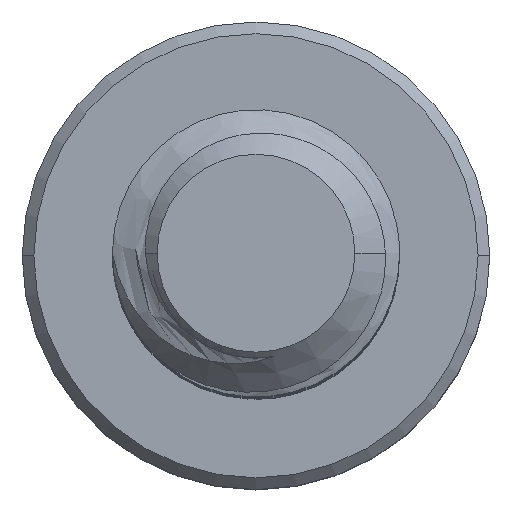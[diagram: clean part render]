
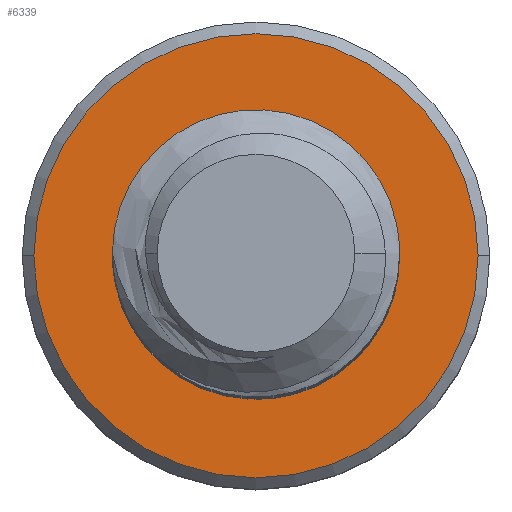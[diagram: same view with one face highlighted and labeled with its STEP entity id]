
A CAD part, top view. The second image highlights one B-rep face of the part: STEP entity #6339.
In plain terms, the highlighted planar face has unit normal (0, 0, 1).
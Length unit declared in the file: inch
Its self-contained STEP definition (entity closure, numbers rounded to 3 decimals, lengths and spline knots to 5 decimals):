
#95 = CARTESIAN_POINT ( 'NONE',  ( 0.01493, 0.03101, -0.4375 ) ) ;
#135 = CARTESIAN_POINT ( 'NONE',  ( -0.02759, 0.01755, -0.4375 ) ) ;
#168 = DIRECTION ( 'NONE',  ( 0., 0., -1. ) ) ;
#585 = CARTESIAN_POINT ( 'NONE',  ( 0.03288, 0.0178, -0.4375 ) ) ;
#605 = CARTESIAN_POINT ( 'NONE',  ( 0., -0.043, -0.4375 ) ) ;
#631 = CARTESIAN_POINT ( 'NONE',  ( -0.022, 0.02241, -0.4375 ) ) ;
#670 = DIRECTION ( 'NONE',  ( 0., 0., -1. ) ) ;
#791 = ORIENTED_EDGE ( 'NONE', *, *, #3292, .T. ) ;
#1014 = CARTESIAN_POINT ( 'NONE',  ( 0., 0., -0.4375 ) ) ;
#1051 = VERTEX_POINT ( 'NONE', #1275 ) ;
#1080 = CARTESIAN_POINT ( 'NONE',  ( 0.04012, -0.00334, -0.4375 ) ) ;
#1082 = B_SPLINE_CURVE_WITH_KNOTS ( 'NONE', 3,
 ( #605, #3599, #1104, #4619, #1634, #5127, #2137, #5638, #2642, #6149, #3138, #135, #3623, #631 ),
 .UNSPECIFIED., .F., .F.,
 ( 4, 2, 2, 2, 2, 2, 4 ),
 ( 0., 0.00028, 0.00056, 0.00112, 0.00168, 0.00196, 0.00224 ),
 .UNSPECIFIED. ) ;
#1104 = CARTESIAN_POINT ( 'NONE',  ( -0.00728, -0.04173, -0.4375 ) ) ;
#1275 = CARTESIAN_POINT ( 'NONE',  ( 0.03013, -0.03068, -0.4375 ) ) ;
#1315 = AXIS2_PLACEMENT_3D ( 'NONE', #1014, #4537, #1545 ) ;
#1319 = DIRECTION ( 'NONE',  ( 0., 0., 1. ) ) ;
#1332 = FACE_BOUND ( 'NONE', #5435, .T. ) ;
#1414 = ORIENTED_EDGE ( 'NONE', *, *, #3347, .T. ) ;
#1491 = CARTESIAN_POINT ( 'NONE',  ( 0., 0., -0.4375 ) ) ;
#1499 = CARTESIAN_POINT ( 'NONE',  ( 0., 0.0314, -0.4375 ) ) ;
#1533 = AXIS2_PLACEMENT_3D ( 'NONE', #3173, #168, #3664 ) ;
#1545 = DIRECTION ( 'NONE',  ( -1., 0., 0. ) ) ;
#1614 = CARTESIAN_POINT ( 'NONE',  ( 0.03747, -0.01789, -0.4375 ) ) ;
#1634 = CARTESIAN_POINT ( 'NONE',  ( -0.01742, -0.03715, -0.4375 ) ) ;
#1836 = CARTESIAN_POINT ( 'NONE',  ( 0., -0.043, -0.4375 ) ) ;
#1847 = AXIS2_PLACEMENT_3D ( 'NONE', #2684, #670, #4173 ) ;
#1906 = CIRCLE ( 'NONE', #4286, 0.043 ) ;
#2004 = DIRECTION ( 'NONE',  ( -1., 0., 0. ) ) ;
#2120 = CARTESIAN_POINT ( 'NONE',  ( 0.03247, -0.02778, -0.4375 ) ) ;
#2137 = CARTESIAN_POINT ( 'NONE',  ( -0.03084, -0.02423, -0.4375 ) ) ;
#2323 = ORIENTED_EDGE ( 'NONE', *, *, #3198, .F. ) ;
#2588 = CARTESIAN_POINT ( 'NONE',  ( 0., 0.0314, -0.4375 ) ) ;
#2642 = CARTESIAN_POINT ( 'NONE',  ( -0.03635, -0.00276, -0.4375 ) ) ;
#2684 = CARTESIAN_POINT ( 'NONE',  ( 0., 0., -0.4375 ) ) ;
#3138 = CARTESIAN_POINT ( 'NONE',  ( -0.03176, 0.01137, -0.4375 ) ) ;
#3173 = CARTESIAN_POINT ( 'NONE',  ( 0., 0., -0.4375 ) ) ;
#3198 = EDGE_CURVE ( 'NONE', #3233, #1051, #1906, .T. ) ;
#3233 = VERTEX_POINT ( 'NONE', #1836 ) ;
#3267 = ORIENTED_EDGE ( 'NONE', *, *, #3400, .T. ) ;
#3292 = EDGE_CURVE ( 'NONE', #4294, #3538, #6363, .T. ) ;
#3347 = EDGE_CURVE ( 'NONE', #3538, #4294, #3847, .T. ) ;
#3400 = EDGE_CURVE ( 'NONE', #3971, #1051, #6103, .T. ) ;
#3433 = EDGE_CURVE ( 'NONE', #3233, #6194, #1082, .T. ) ;
#3538 = VERTEX_POINT ( 'NONE', #5611 ) ;
#3576 = CARTESIAN_POINT ( 'NONE',  ( -0.022, 0.02241, -0.4375 ) ) ;
#3585 = CARTESIAN_POINT ( 'NONE',  ( 0.02788, 0.02362, -0.4375 ) ) ;
#3596 = EDGE_CURVE ( 'NONE', #6194, #3971, #5207, .T. ) ;
#3599 = CARTESIAN_POINT ( 'NONE',  ( -0.00371, -0.04261, -0.4375 ) ) ;
#3623 = CARTESIAN_POINT ( 'NONE',  ( -0.02505, 0.02024, -0.4375 ) ) ;
#3664 = DIRECTION ( 'NONE',  ( 1., 0., 0. ) ) ;
#3665 = PLANE ( 'NONE',  #1847 ) ;
#3847 = CIRCLE ( 'NONE', #1315, 0.0665 ) ;
#3971 = VERTEX_POINT ( 'NONE', #1499 ) ;
#4082 = CARTESIAN_POINT ( 'NONE',  ( 0.03905, 0.00427, -0.4375 ) ) ;
#4173 = DIRECTION ( 'NONE',  ( -1., 0., 0. ) ) ;
#4286 = AXIS2_PLACEMENT_3D ( 'NONE', #4313, #1319, #4824 ) ;
#4294 = VERTEX_POINT ( 'NONE', #6258 ) ;
#4313 = CARTESIAN_POINT ( 'NONE',  ( 0., 0., -0.4375 ) ) ;
#4537 = DIRECTION ( 'NONE',  ( 0., 0., 1. ) ) ;
#4600 = CARTESIAN_POINT ( 'NONE',  ( 0.03854, -0.01427, -0.4375 ) ) ;
#4619 = CARTESIAN_POINT ( 'NONE',  ( -0.01416, -0.039, -0.4375 ) ) ;
#4824 = DIRECTION ( 'NONE',  ( 1., 0., 0. ) ) ;
#4948 = AXIS2_PLACEMENT_3D ( 'NONE', #1491, #4984, #2004 ) ;
#4984 = DIRECTION ( 'NONE',  ( 0., 0., 1. ) ) ;
#5105 = CARTESIAN_POINT ( 'NONE',  ( 0.03443, -0.02459, -0.4375 ) ) ;
#5127 = CARTESIAN_POINT ( 'NONE',  ( -0.02618, -0.03043, -0.4375 ) ) ;
#5207 = CIRCLE ( 'NONE', #1533, 0.0314 ) ;
#5435 = EDGE_LOOP ( 'NONE', ( #2323, #5469, #5592, #3267 ) ) ;
#5469 = ORIENTED_EDGE ( 'NONE', *, *, #3433, .T. ) ;
#5592 = ORIENTED_EDGE ( 'NONE', *, *, #3596, .T. ) ;
#5595 = CARTESIAN_POINT ( 'NONE',  ( 0.0074, 0.03245, -0.4375 ) ) ;
#5611 = CARTESIAN_POINT ( 'NONE',  ( 0.0665, 0., -0.4375 ) ) ;
#5619 = CARTESIAN_POINT ( 'NONE',  ( 0.03013, -0.03068, -0.4375 ) ) ;
#5638 = CARTESIAN_POINT ( 'NONE',  ( -0.03599, -0.01043, -0.4375 ) ) ;
#5805 = FACE_OUTER_BOUND ( 'NONE', #6153, .T. ) ;
#6103 = B_SPLINE_CURVE_WITH_KNOTS ( 'NONE', 3,
 ( #2588, #5595, #95, #3585, #585, #4082, #1080, #4600, #1614, #5105, #2120, #5619 ),
 .UNSPECIFIED., .F., .F.,
 ( 4, 2, 2, 2, 2, 4 ),
 ( 0., 0.00056, 0.00112, 0.00168, 0.00196, 0.00224 ),
 .UNSPECIFIED. ) ;
#6149 = CARTESIAN_POINT ( 'NONE',  ( -0.03331, 0.00803, -0.4375 ) ) ;
#6153 = EDGE_LOOP ( 'NONE', ( #791, #1414 ) ) ;
#6194 = VERTEX_POINT ( 'NONE', #3576 ) ;
#6258 = CARTESIAN_POINT ( 'NONE',  ( -0.0665, 0., -0.4375 ) ) ;
#6339 = ADVANCED_FACE ( 'NONE', ( #5805, #1332 ), #3665, .F. ) ;
#6363 = CIRCLE ( 'NONE', #4948, 0.0665 ) ;
